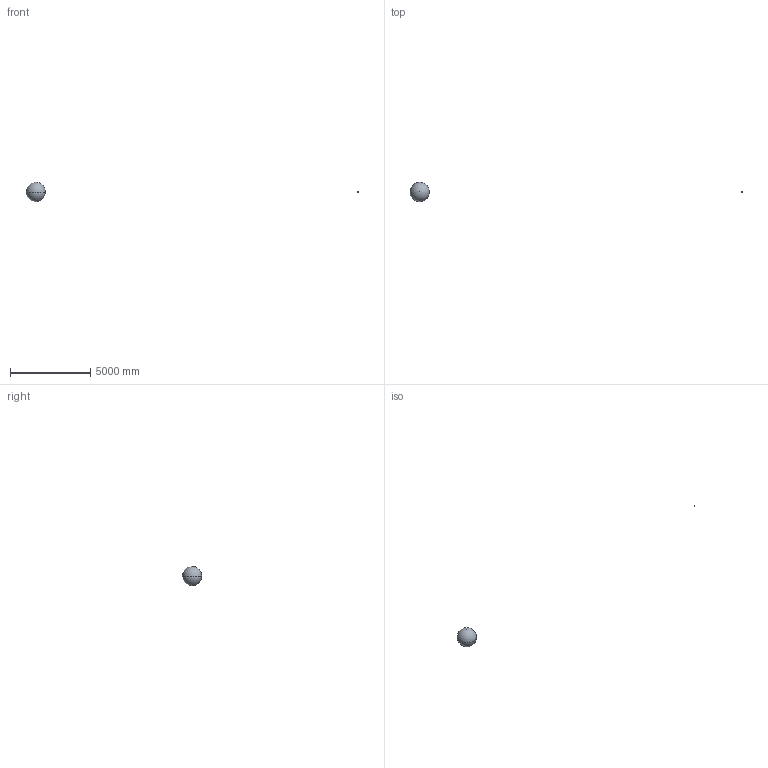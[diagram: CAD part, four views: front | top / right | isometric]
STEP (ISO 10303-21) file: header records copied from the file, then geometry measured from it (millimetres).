
FILE_DESCRIPTION (( 'STEP AP203' ), '1' );
FILE_NAME ('etoile1_Défaut_sldprt.STEP', '2018-04-06T14:29:00', ( '' ), ( '' ), 'SwSTEP 2.0', 'SolidWorks 2013', '' );
FILE_SCHEMA (( 'CONFIG_CONTROL_DESIGN' ));
Length unit declared in the file: millimetre
Products named in the file (1): etoile1_Défaut_sldprt
Bounding box: 20625 x 1200 x 1200 mm (x, y, z)
Volume: 904870922.7 mm3; surface area: 4546669.9 mm2
Topology: 1 solids, 1 shells, 8 faces, 26 edges, 17 vertices
Faces by surface type: cylinder 4, sphere 3, plane 1
Entity records: 350 total; most frequent: CARTESIAN_POINT 74, DIRECTION 48, ORIENTED_EDGE 38, AXIS2_PLACEMENT_3D 22, EDGE_CURVE 19, CIRCLE 13, VERTEX_POINT 13, PERSON_AND_ORGANIZATION 8
